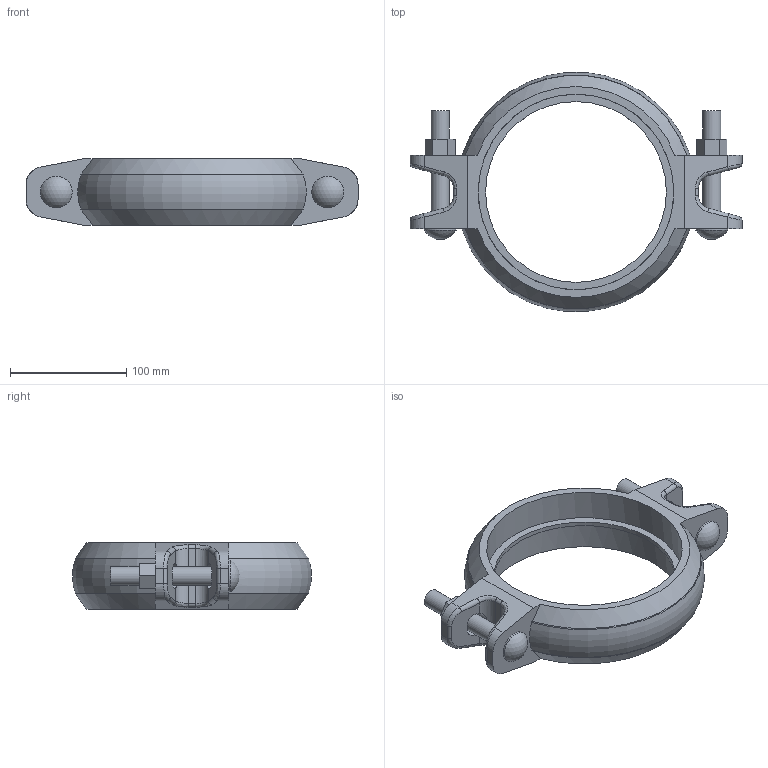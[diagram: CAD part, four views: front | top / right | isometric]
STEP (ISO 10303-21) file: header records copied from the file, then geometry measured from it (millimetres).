
FILE_DESCRIPTION(/* description */ ('QUICKVIC RIGID COUPLING FOR STEEL STYLE 107N','CAx-IF Rec.Pracs.---Representation and Presentation of Product Manufacturing Information (PMI)---4.0---2014-10-13'),/* implementation_level */ '2;1');
FILE_NAME(/* name */ 'C:\Users\Vjadhav\Desktop\CAD for Inventor\1\Coupling bolt thickness\107N\STEP\Victaulic_IPS_Coupling Rigid_Style 107N (OGS)\Victaulic_IPS_Coupling Rigid_Style 107N (OGS)_6 (150).stp',/* time_stamp */ '2022-03-28T14:19:33+06:00',/* author */ ('jheald'),/* organization */ ('Victaulic'),/* preprocessor_version */ 'ST-DEVELOPER v17.2',/* originating_system */ 'Autodesk Inventor 2019',/* authorisation */ '');
FILE_SCHEMA (('AP242_MANAGED_MODEL_BASED_3D_ENGINEERING_MIM_LF { 1 0 10303 442 1 1 4 }'));
Length unit declared in the file: inch
Products named in the file (1): 107N-06.0
Bounding box: 285.75 x 205.71 x 57.15 mm (x, y, z)
Volume: 696726.9 mm3; surface area: 117675 mm2
Topology: 1 solids, 1 shells, 123 faces, 327 edges, 210 vertices
Faces by surface type: plane 50, cylinder 45, bspline 16, torus 6, cone 4, sphere 2
Full cylindrical faces by diameter (mm): 15.875 x4, 27.381 x2, 155.575 x1, 168.275 x2
Entity records: 4660 total; most frequent: CARTESIAN_POINT 1314, DIRECTION 675, ORIENTED_EDGE 654, EDGE_CURVE 327, AXIS2_PLACEMENT_3D 255, VERTEX_POINT 210, LINE 165, VECTOR 165
